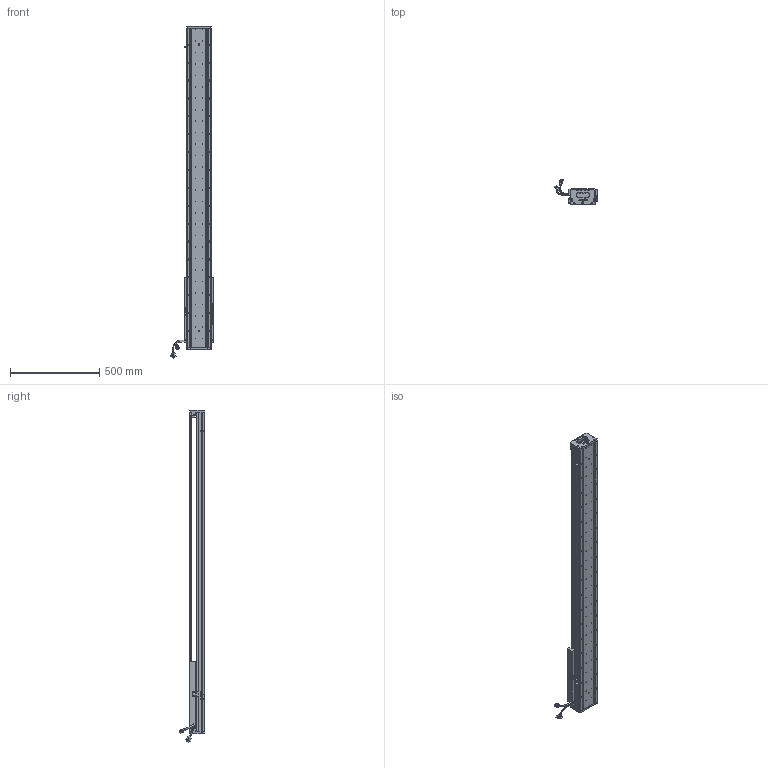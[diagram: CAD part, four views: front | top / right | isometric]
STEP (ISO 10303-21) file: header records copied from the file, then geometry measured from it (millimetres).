
FILE_DESCRIPTION (( 'STEP AP203' ), '1' );
FILE_NAME ('Z5-RY140D-1-L500-B-K.SLDASM_1350.step', '2021-05-17T08:36:33', ( '盈信电脑' ), ( '东莞市道滘镇水果街19号' ), 'SwSTEP 2.0', 'SolidWorks 2016', '' );
FILE_SCHEMA (( 'CONFIG_CONTROL_DESIGN' ));
Length unit declared in the file: millimetre
Products named in the file (36): 140-Z-臏賑輸盄裔(21遴); SCREW-M1.6; SCALE-Part-2; Z5-RY140-L500詩湍100mm遵_1350; HOLDER0; 140蚥薯蝶輸; SCREW-M1.6-1; SCALE; LABEL; SEAL-Part-1; Z5-RY140圉猾敕臏賑輸(21遴); SCREW-M1.7-1; SCREW-M1.6-2; SEAL; 詩湍奻揤裔; COVER; 覜茼ん672; SHIELDPLATE; 080黍杅芛假蚾釱21遴; Z-RY140感应器672光电感应片; PBU_SHEET; SCALE-Part-1; HARNESS-Part-1; SCREW-M1.6-3; Z5-RY140D-1-L500-B-K.SLDASM_1350; 140雄赽晤鎢ん堤盄; HARNESS-Part-2; 詩湍狟揤裔; PSLH080_PSLF2; 榋妏寠巭燃_暯_M2_2; HARNESS; Z5-RY140-L500直线电机模组底座_1350; COVER-Part-1; LABEL-Part-1; SCREW-M1.7; Z-140詩湍傷裔啣
Assembly tree (41 placements, depth 4):
  Z5-RY140D-1-L500-B-K.SLDASM_1350
    Z5-RY140-L500直线电机模组底座_1350
    Z-RY140感应器672光电感应片
    Z5-RY140圉猾敕臏賑輸(21遴)
    覜茼ん672  x3
    Z5-RY140-L500詩湍100mm遵_1350
    PSLH080_PSLF2
      SCALE
        SCALE-Part-1
        SCALE-Part-2
      HARNESS
        HARNESS-Part-1
        HARNESS-Part-2
      LABEL
        LABEL-Part-1
      COVER
        COVER-Part-1
      SEAL
        SEAL-Part-1
      榋妏寠巭燃_暯_M2_2
      SHIELDPLATE
      SCREW-M1.7
      SCREW-M1.7-1
      PBU_SHEET
      SCREW-M1.6
      SCREW-M1.6-1
      SCREW-M1.6-2
      SCREW-M1.6-3
      HOLDER0
    080黍杅芛假蚾釱21遴
    140-Z-臏賑輸盄裔(21遴)
    Z-140詩湍傷裔啣  x2
    詩湍狟揤裔  x2
    詩湍奻揤裔  x2
    140蚥薯蝶輸  x2
    140雄赽晤鎢ん堤盄
Bounding box: 239.83 x 143.88 x 1855.87 mm (x, y, z)
Volume: 6645202.7 mm3; surface area: 1684020.4 mm2
Topology: 36 solids, 36 shells, 3552 faces, 9516 edges, 6027 vertices
Faces by surface type: cylinder 1826, plane 1254, cone 350, torus 69, bspline 53
Entity records: 108716 total; most frequent: CARTESIAN_POINT 28983, ORIENTED_EDGE 16056, DIRECTION 15428, EDGE_CURVE 8028, AXIS2_PLACEMENT_3D 5736, VERTEX_POINT 5195, LINE 3956, VECTOR 3956
